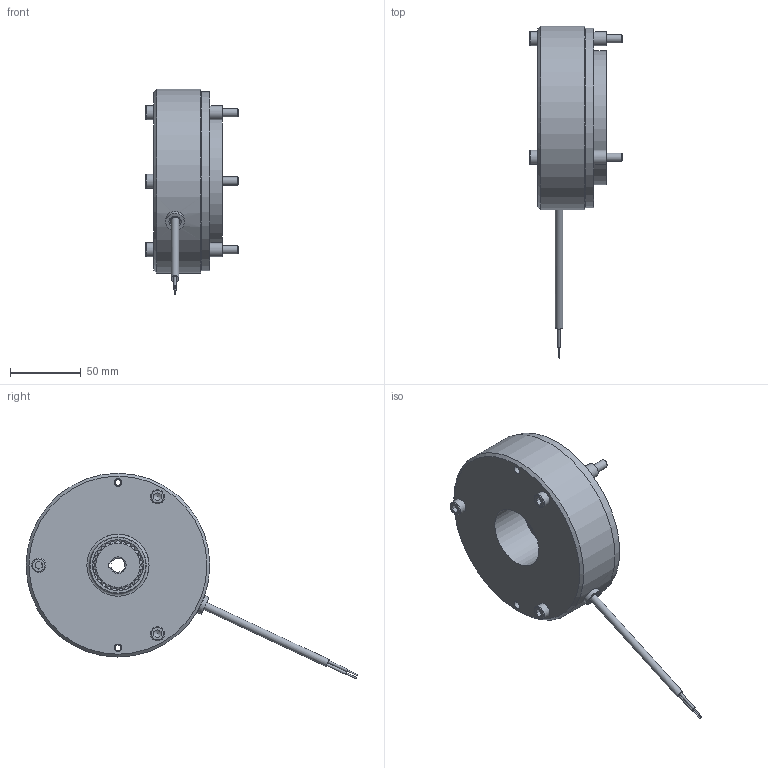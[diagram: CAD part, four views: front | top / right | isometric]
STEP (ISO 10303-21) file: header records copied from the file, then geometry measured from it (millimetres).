
FILE_DESCRIPTION(/* description */ (''),/* implementation_level */ '2;1');
FILE_NAME(/* name */ 'C:\SapWorkDir\Inventor\IP1\ConvertTempPath\5028669_IPT_000.ipt.stp',/* time_stamp */ '2020-09-16T15:18:00+02:00',/* author */ ('STRATE'),/* organization */ (''),/* preprocessor_version */ 'ST-DEVELOPER v17',/* originating_system */ 'Autodesk Inventor 2018',/* authorisation */ '');
FILE_SCHEMA (('AUTOMOTIVE_DESIGN { 1 0 10303 214 3 1 1 }'));
Length unit declared in the file: millimetre
Products named in the file (1): 5028669
Bounding box: 66 x 234.79 x 145.31 mm (x, y, z)
Volume: 523850.9 mm3; surface area: 97265.6 mm2
Topology: 3 solids, 3 shells, 333 faces, 940 edges, 640 vertices
Faces by surface type: cylinder 253, plane 55, cone 16, torus 9
Full cylindrical faces by diameter (mm): 1 x2, 1.85 x2, 4.134 x2, 5.3 x1, 5.4 x2, 6 x3, 6.4 x3, 6.6 x1, 7 x3, 7.3 x2, 10 x6, 10.8 x6, 13.2 x1, 44 x2, 65.7 x2, 66.1 x2, 95 x1, 127 x1, 130 x1
Entity records: 12176 total; most frequent: CARTESIAN_POINT 3084, ORIENTED_EDGE 1878, DIRECTION 1755, EDGE_CURVE 939, AXIS2_PLACEMENT_3D 721, VERTEX_POINT 640, EDGE_LOOP 393, CIRCLE 387
